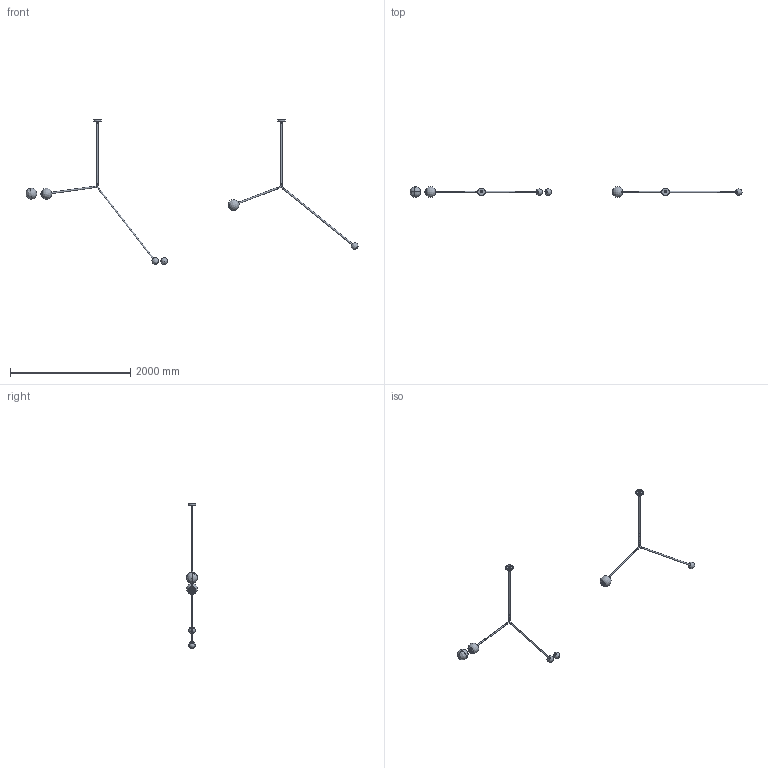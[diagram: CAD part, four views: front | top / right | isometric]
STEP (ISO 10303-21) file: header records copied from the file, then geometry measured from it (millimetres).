
FILE_DESCRIPTION(/* description */ (''),/* implementation_level */ '2;1');
FILE_NAME(/* name */ 'SkLO_LT901_Angle1.0Pendant_3D_m',/* time_stamp */ '2025-03-20T11:44:42+01:00',/* author */ (''),/* organization */ (''),/* preprocessor_version */ 'ST-DEVELOPER v16.5',/* originating_system */ 'Rhino 7.38',/* authorisation */ '');
FILE_SCHEMA (('CONFIG_CONTROL_DESIGN'));
Products named in the file (1): Document
Bounding box: 5520.92 x 180 x 2407.66 mm (x, y, z)
Volume: 2671688.4 mm3; surface area: 1991739.4 mm2
Topology: 74 solids, 76 shells, 2576 faces, 6467 edges, 4078 vertices
Faces by surface type: plane 1164, bspline 757, cylinder 655
Full cylindrical faces by diameter (mm): 3 x12, 5.065 x84, 7 x4, 8.775 x2, 9 x2, 9.185 x10, 10 x22, 10.725 x2, 11 x4, 13 x4, 20.58 x2, 20.787 x2, 20.788 x2, 20.8 x6, 20.85 x10, 21 x18, 23 x4, 23.92 x8, 25 x14, 27 x8, 27.877 x28, 29 x2, 30 x4, 34 x1, 35 x2, 38 x4, 42 x4, 127 x2
Entity records: 550724 total; most frequent: CARTESIAN_POINT 509105, ORIENTED_EDGE 12768, EDGE_CURVE 6386, B_SPLINE_CURVE_WITH_KNOTS 4414, VERTEX_POINT 4072, EDGE_LOOP 2794, ADVANCED_FACE 2576, FACE_OUTER_BOUND 2576
